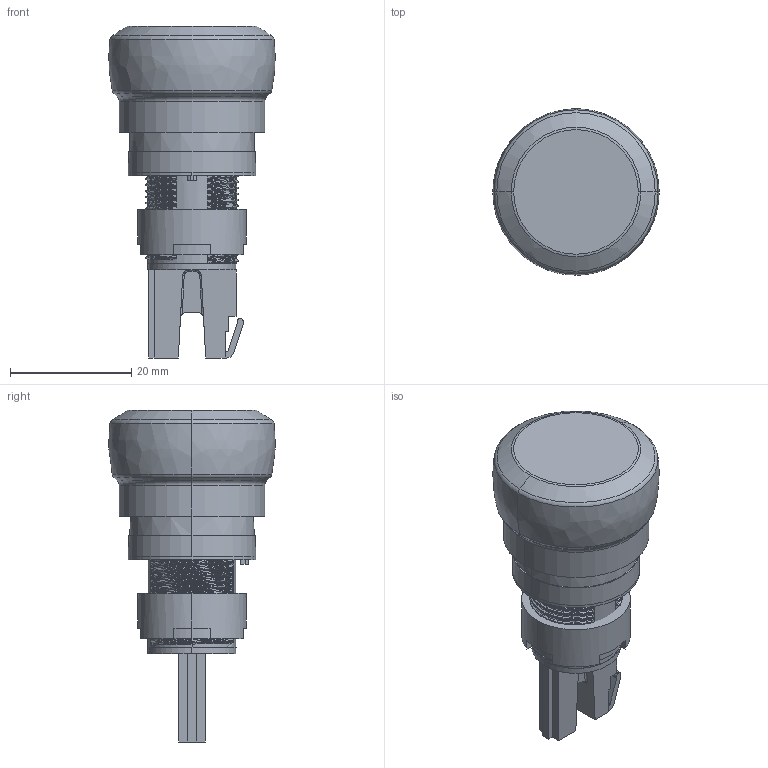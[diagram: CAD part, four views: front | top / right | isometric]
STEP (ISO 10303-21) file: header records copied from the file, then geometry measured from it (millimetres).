
FILE_DESCRIPTION((''),'2;1');
FILE_NAME('A01ES-DF2_SW0001','2015-12-23T',('snouilhan'),(''),'CREO PARAMETRIC BY PTC INC, 2014440','CREO PARAMETRIC BY PTC INC, 2014440','');
FILE_SCHEMA(('CONFIG_CONTROL_DESIGN'));
Length unit declared in the file: millimetre
Products named in the file (1): A01ES-DF2_SW0001
Bounding box: 27.42 x 27.37 x 54.7 mm (x, y, z)
Surface area: 6982.9 mm2 (no closed solid volume)
Topology: 0 solids, 8 shells, 237 faces, 827 edges, 564 vertices
Faces by surface type: plane 91, bspline 80, cylinder 48, torus 10, cone 6, revolution 2
Entity records: 28580 total; most frequent: CARTESIAN_POINT 22401, ORIENTED_EDGE 1411, DIRECTION 935, EDGE_CURVE 823, VERTEX_POINT 564, B_SPLINE_CURVE_WITH_KNOTS 356, VECTOR 315, LINE 315
